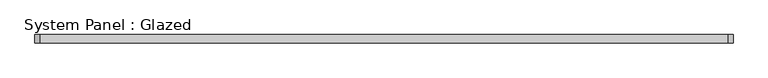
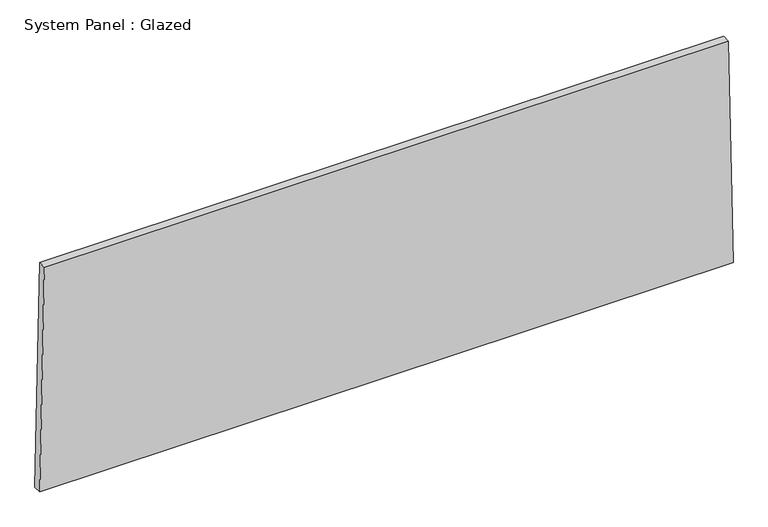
"""IFC4 building model written with IfcOpenShell, lengths in millimetres: plate geometry, System Panel : Glazed."""

from ifc_helpers import new_model, si_unit, frame, origin, place, context, project, spatial, polyline, outline, extrude, source, transform, mapped, element, save


def system_panel_glazed_e103372f(model_context):
    return source(origin(), model_context, "Body", "SweptSolid", [
        extrude(outline(polyline([(0.0, -1064.4292846), (0.0, 1064.4292846), (723.7529951, 1050.2106901), (723.7529951, -1050.2106901), (0.0, -1064.4292846)])), frame((0.0, 19.05, 0.0), z_axis=(0.0, 1.0, 0.0), x_axis=(0.0, 0.0, 1.0)), (0.0, 0.0, 1.0), 25.4),
    ])


if __name__ == "__main__":
    model = new_model("IFC4")
    model_context = context("Model", 3, world=origin())
    ifc_project = project(units=[si_unit("LENGTHUNIT", "METRE", prefix="MILLI")], contexts=[model_context])
    site = spatial("IfcSite", under=ifc_project)
    building = spatial("IfcBuilding", under=site)
    placement = place(None, origin())
    system_panel_glazed_shape = system_panel_glazed_e103372f(model_context)
    element("IfcPlate", 1, ObjectType="System Panel : Glazed", at=placement, inside=building, context=model_context, shape_type="MappedRepresentation", body=[
        mapped(system_panel_glazed_shape, transform((0.0, 0.0, 0.0), x_axis=(1.0, 0.0, 0.0), y_axis=(0.0, 1.0, 0.0), z_axis=(0.0, 0.0, 1.0))),
    ])
    save(model, "model.ifc")
